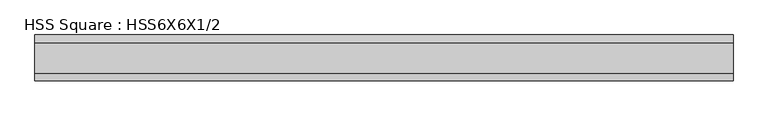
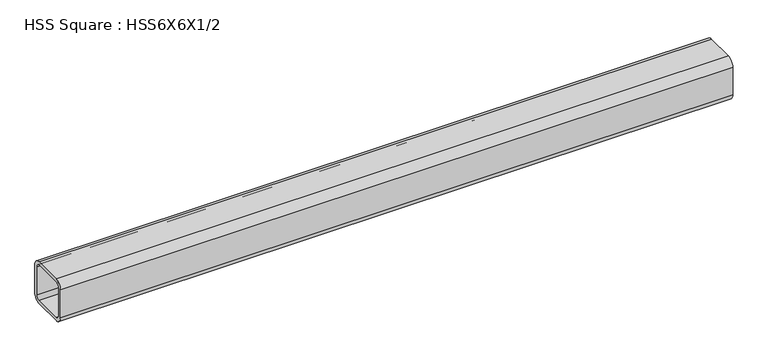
"""IFC4 building model written with IfcOpenShell, lengths in millimetres: beam geometry, HSS Square : HSS6X6X1/2."""

from ifc_helpers import new_model, si_unit, point, frame, frame_2d, origin, place, context, project, spatial, polyline, circle_curve, trimmed, segment, composite_curve, outline, extrude, source, transform, mapped, element, save


def hss_square_hss6x6x1_2_1b88db30(model_context):
    return source(origin(), model_context, "Body", "SweptSolid", [
        extrude(outline(composite_curve([segment(polyline([(76.2, 50.8), (76.2, -50.8)]), True, "CONTINUOUS"), segment(trimmed(circle_curve(frame_2d((50.8, -50.8)), 25.4), [point((76.2, -50.8))], [point((50.8, -76.2))], False, "CARTESIAN"), True, "CONTINUOUS"), segment(polyline([(50.8, -76.2), (-50.8, -76.2)]), True, "CONTINUOUS"), segment(trimmed(circle_curve(frame_2d((-50.8, -50.8)), 25.4), [point((-50.8, -76.2))], [point((-76.2, -50.8))], False, "CARTESIAN"), True, "CONTINUOUS"), segment(polyline([(-76.2, -50.8), (-76.2, 50.8)]), True, "CONTINUOUS"), segment(trimmed(circle_curve(frame_2d((-50.8, 50.8)), 25.4), [point((-76.2, 50.8))], [point((-50.8, 76.2))], False, "CARTESIAN"), True, "CONTINUOUS"), segment(polyline([(-50.8, 76.2), (50.8, 76.2)]), True, "CONTINUOUS"), segment(trimmed(circle_curve(frame_2d((50.8, 50.8)), 25.4), [point((50.8, 76.2))], [point((76.2, 50.8))], False, "CARTESIAN"), True, "CONTINUOUS")], self_intersect=False), holes=[composite_curve([segment(trimmed(circle_curve(frame_2d((-50.8, 50.8)), 12.7), [point((-50.8, 63.5))], [point((-63.5, 50.8))], True, "CARTESIAN"), True, "CONTINUOUS"), segment(polyline([(-63.5, 50.8), (-63.5, -50.8)]), True, "CONTINUOUS"), segment(trimmed(circle_curve(frame_2d((-50.8, -50.8)), 12.7), [point((-63.5, -50.8))], [point((-50.8, -63.5))], True, "CARTESIAN"), True, "CONTINUOUS"), segment(polyline([(-50.8, -63.5), (50.8, -63.5)]), True, "CONTINUOUS"), segment(trimmed(circle_curve(frame_2d((50.8, -50.8)), 12.7), [point((50.8, -63.5))], [point((63.5, -50.8))], True, "CARTESIAN"), True, "CONTINUOUS"), segment(polyline([(63.5, -50.8), (63.5, 50.8)]), True, "CONTINUOUS"), segment(trimmed(circle_curve(frame_2d((50.8, 50.8)), 12.7), [point((63.5, 50.8))], [point((50.8, 63.5))], True, "CARTESIAN"), True, "CONTINUOUS"), segment(polyline([(50.8, 63.5), (-50.8, 63.5)]), True, "CONTINUOUS")], self_intersect=False)]), frame((-1180.7859743, 0.0, 0.0), z_axis=(1.0, 0.0, 0.0), x_axis=(0.0, 1.0, 0.0)), (0.0, 0.0, 1.0), 2323.912215),
    ])


if __name__ == "__main__":
    model = new_model("IFC4")
    model_context = context("Model", 3, world=origin())
    ifc_project = project(units=[si_unit("LENGTHUNIT", "METRE", prefix="MILLI")], contexts=[model_context])
    site = spatial("IfcSite", under=ifc_project)
    building = spatial("IfcBuilding", under=site)
    placement = place(None, origin())
    hss_square_hss6x6x1_2_shape = hss_square_hss6x6x1_2_1b88db30(model_context)
    element("IfcBeam", 1, ObjectType="HSS Square : HSS6X6X1/2", at=placement, inside=building, context=model_context, shape_type="MappedRepresentation", body=[
        mapped(hss_square_hss6x6x1_2_shape, transform((0.0, 0.0, 0.0), x_axis=(1.0, 0.0, 0.0), y_axis=(0.0, 1.0, 0.0), z_axis=(0.0, 0.0, 1.0))),
    ])
    save(model, "model.ifc")
